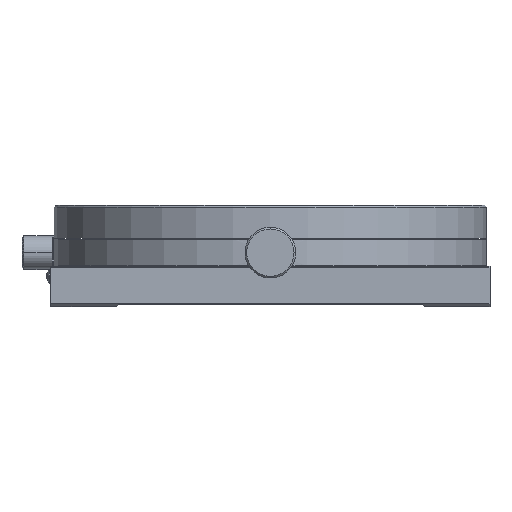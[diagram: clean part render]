
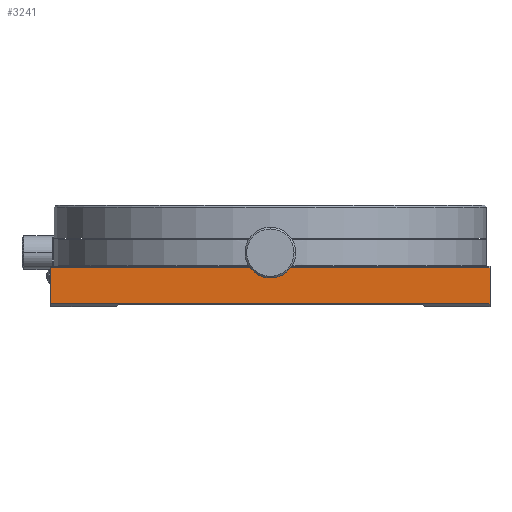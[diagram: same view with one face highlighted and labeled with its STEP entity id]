
A CAD part, left-side view. The second image highlights one B-rep face of the part: STEP entity #3241.
In plain terms, the highlighted planar face has unit normal (-1, 0, 0).
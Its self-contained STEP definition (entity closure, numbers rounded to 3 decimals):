
#3076 = VERTEX_POINT ( 'NONE', #16887 ) ;
#3078 = EDGE_CURVE ( 'NONE', #3079, #3076, #16886, .T. ) ;
#3079 = VERTEX_POINT ( 'NONE', #16882 ) ;
#3176 = VERTEX_POINT ( 'NONE', #17042 ) ;
#3180 = EDGE_CURVE ( 'NONE', #3079, #3176, #17041, .T. ) ;
#3241 = ADVANCED_FACE ( 'NONE', ( #17087 ), #17147, .T. ) ;
#3242 = EDGE_LOOP ( 'NONE', ( #3243, #3246, #3247, #3248 ) ) ;
#3243 = ORIENTED_EDGE ( 'NONE', *, *, #3244, .F. ) ;
#3244 = EDGE_CURVE ( 'NONE', #3176, #3245, #17142, .T. ) ;
#3245 = VERTEX_POINT ( 'NONE', #17138 ) ;
#3246 = ORIENTED_EDGE ( 'NONE', *, *, #3180, .F. ) ;
#3247 = ORIENTED_EDGE ( 'NONE', *, *, #3078, .T. ) ;
#3248 = ORIENTED_EDGE ( 'NONE', *, *, #3249, .T. ) ;
#3249 = EDGE_CURVE ( 'NONE', #3076, #3245, #17137, .T. ) ;
#16882 = CARTESIAN_POINT ( 'NONE',  ( -65., 65., 11.5 ) ) ;
#16883 = DIRECTION ( 'NONE',  ( 0., 0., -1. ) ) ;
#16884 = VECTOR ( 'NONE', #16883, 1000. ) ;
#16885 = CARTESIAN_POINT ( 'NONE',  ( -65., 65., 11.5 ) ) ;
#16886 = LINE ( 'NONE', #16885, #16884 ) ;
#16887 = CARTESIAN_POINT ( 'NONE',  ( -65., 65., 0.8 ) ) ;
#17038 = DIRECTION ( 'NONE',  ( 0., -1., 0. ) ) ;
#17039 = VECTOR ( 'NONE', #17038, 1000. ) ;
#17040 = CARTESIAN_POINT ( 'NONE',  ( -65., 65., 11.5 ) ) ;
#17041 = LINE ( 'NONE', #17040, #17039 ) ;
#17042 = CARTESIAN_POINT ( 'NONE',  ( -65., -65., 11.5 ) ) ;
#17087 = FACE_OUTER_BOUND ( 'NONE', #3242, .T. ) ;
#17134 = DIRECTION ( 'NONE',  ( 0., -1., 0. ) ) ;
#17135 = VECTOR ( 'NONE', #17134, 1000. ) ;
#17136 = CARTESIAN_POINT ( 'NONE',  ( -65., 65., 0.8 ) ) ;
#17137 = LINE ( 'NONE', #17136, #17135 ) ;
#17138 = CARTESIAN_POINT ( 'NONE',  ( -65., -65., 0.8 ) ) ;
#17139 = DIRECTION ( 'NONE',  ( 0., 0., -1. ) ) ;
#17140 = VECTOR ( 'NONE', #17139, 1000. ) ;
#17141 = CARTESIAN_POINT ( 'NONE',  ( -65., -65., 11.5 ) ) ;
#17142 = LINE ( 'NONE', #17141, #17140 ) ;
#17143 = DIRECTION ( 'NONE',  ( 0., -1., 0. ) ) ;
#17144 = DIRECTION ( 'NONE',  ( -1., 0., 0. ) ) ;
#17145 = CARTESIAN_POINT ( 'NONE',  ( -65., 65., 11.5 ) ) ;
#17146 = AXIS2_PLACEMENT_3D ( 'NONE', #17145, #17144, #17143 ) ;
#17147 = PLANE ( 'NONE',  #17146 ) ;
